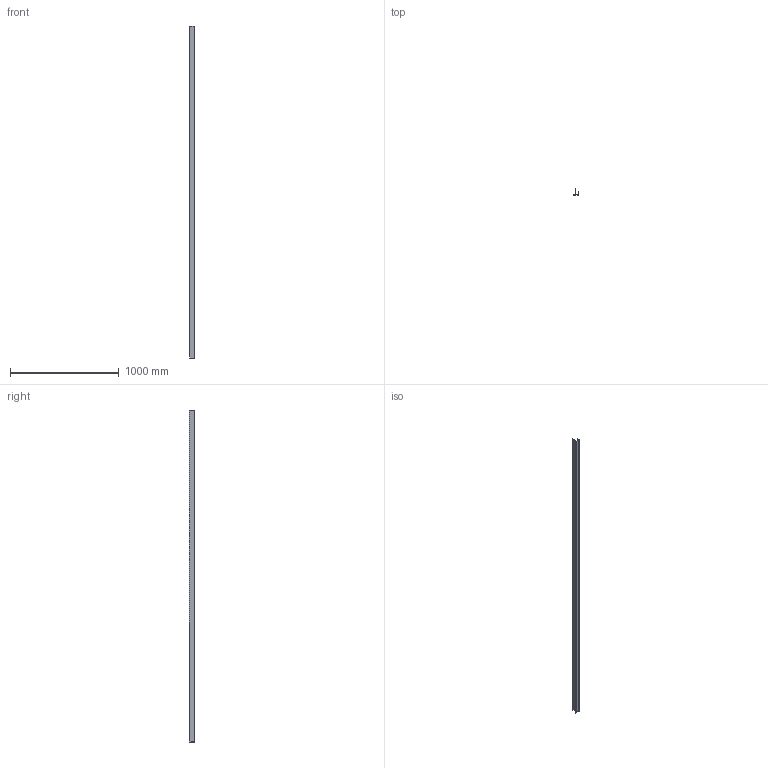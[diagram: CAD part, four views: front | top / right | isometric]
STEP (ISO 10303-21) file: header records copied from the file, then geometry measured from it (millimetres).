
FILE_DESCRIPTION (( 'STEP AP203' ), '1' );
FILE_NAME ('M03G.STEP', '2018-06-15T14:01:37', ( 'Michael Moliner' ), ( '' ), 'SwSTEP 2.0', 'SolidWorks 2018', '' );
FILE_SCHEMA (( 'CONFIG_CONTROL_DESIGN' ));
Length unit declared in the file: inch
Products named in the file (2): M03G
Bounding box: 45.64 x 52.32 x 3048 mm (x, y, z)
Volume: 269530.1 mm3; surface area: 1064415.8 mm2
Topology: 1 solids, 1 shells, 21 faces, 57 edges, 38 vertices
Faces by surface type: plane 14, cylinder 7
Entity records: 822 total; most frequent: CARTESIAN_POINT 118, DIRECTION 117, ORIENTED_EDGE 114, EDGE_CURVE 57, VECTOR 43, LINE 43, VERTEX_POINT 38, AXIS2_PLACEMENT_3D 37
